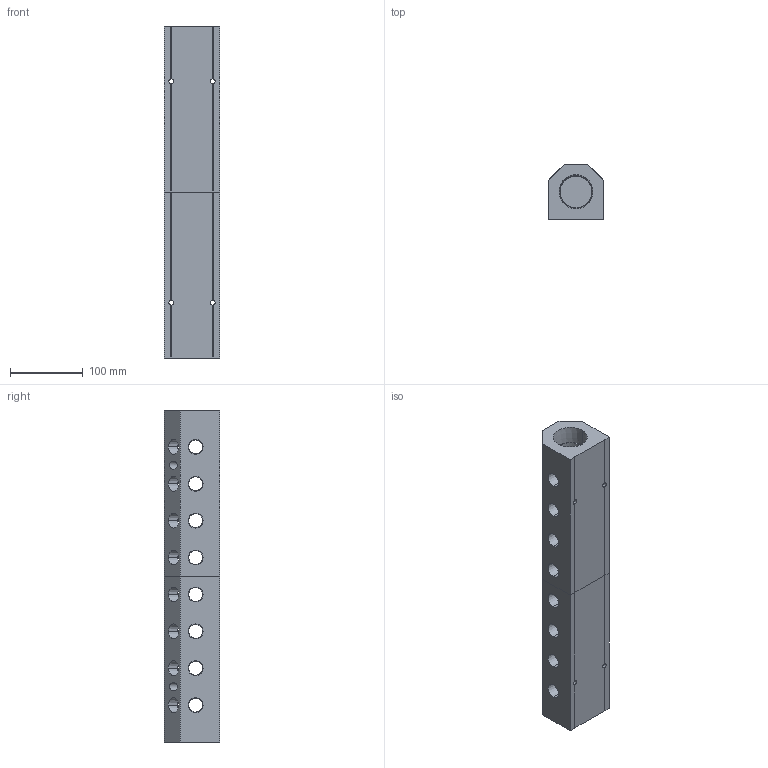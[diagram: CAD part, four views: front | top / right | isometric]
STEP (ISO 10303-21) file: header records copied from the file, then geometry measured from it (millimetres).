
FILE_DESCRIPTION (( 'STEP AP214' ), '1' );
FILE_NAME ('ALM8ABCDE-N8N24-457RB.step', '2022-02-07T09:39:48', ( '' ), ( '' ), 'SwSTEP 2.0', 'SolidWorks 2020', '' );
FILE_SCHEMA (( 'AUTOMOTIVE_DESIGN' ));
Length unit declared in the file: millimetre
Products named in the file (1): ALM8ABCDE-N8N24-457RB
Bounding box: 76.2 x 76.2 x 457 mm (x, y, z)
Volume: 1494659.6 mm3; surface area: 235728.8 mm2
Topology: 2 solids, 2 shells, 449 faces, 1321 edges, 878 vertices
Faces by surface type: plane 258, cone 84, bspline 79, cylinder 28
Entity records: 27705 total; most frequent: CARTESIAN_POINT 12208, ORIENTED_EDGE 2642, DIRECTION 1801, EDGE_CURVE 1321, VERTEX_POINT 878, VECTOR 819, LINE 819, EDGE_LOOP 539
